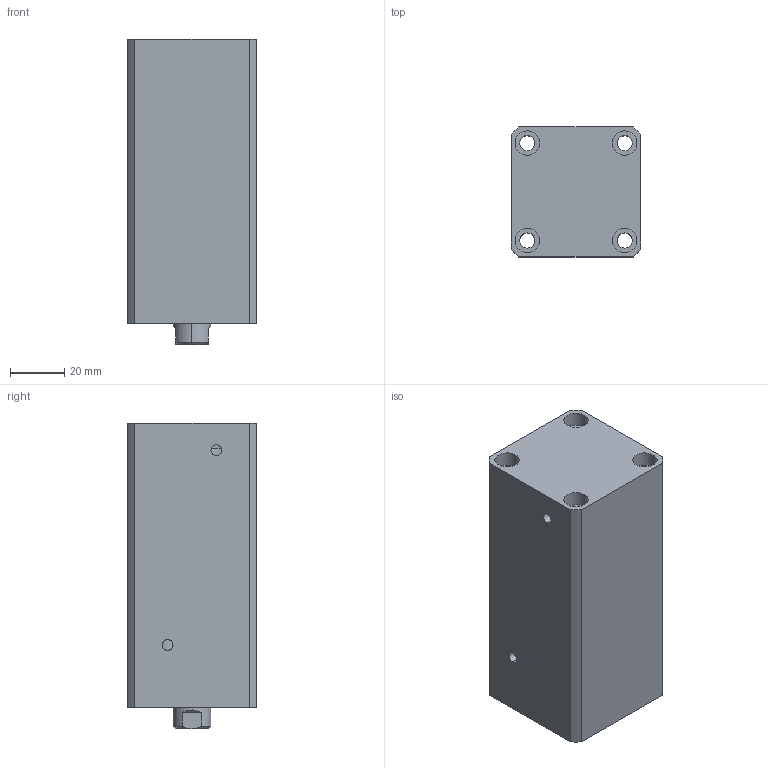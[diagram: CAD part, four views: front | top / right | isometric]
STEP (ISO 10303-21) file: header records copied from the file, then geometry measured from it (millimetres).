
FILE_DESCRIPTION (( 'STEP AP214' ), '1' );
FILE_NAME ('chtb-sdma25x60n_asm.STEP', '2018-05-22T07:07:54', ( 'Windows' ), ( 'Microsoft' ), 'SwSTEP 2.0', 'SolidWorks 2015', '' );
FILE_SCHEMA (( 'AUTOMOTIVE_DESIGN' ));
Length unit declared in the file: millimetre
Products named in the file (4): CHTB-SDMA25X60NHSG; CHTB-SDMA25X60NBT; CHTB-25QG; chtb-sdma25x60n_asm
Assembly tree (3 placements, depth 2):
  chtb-sdma25x60n_asm
    CHTB-25QG
    CHTB-SDMA25X60NBT
    CHTB-SDMA25X60NHSG
Bounding box: 48 x 48 x 113 mm (x, y, z)
Volume: 205688 mm3; surface area: 53164.7 mm2
Topology: 3 solids, 3 shells, 142 faces, 379 edges, 257 vertices
Faces by surface type: cylinder 89, plane 34, bspline 10, cone 9
Entity records: 8020 total; most frequent: CARTESIAN_POINT 4393, ORIENTED_EDGE 746, DIRECTION 661, EDGE_CURVE 373, AXIS2_PLACEMENT_3D 272, VERTEX_POINT 257, EDGE_LOOP 180, FACE_OUTER_BOUND 142
